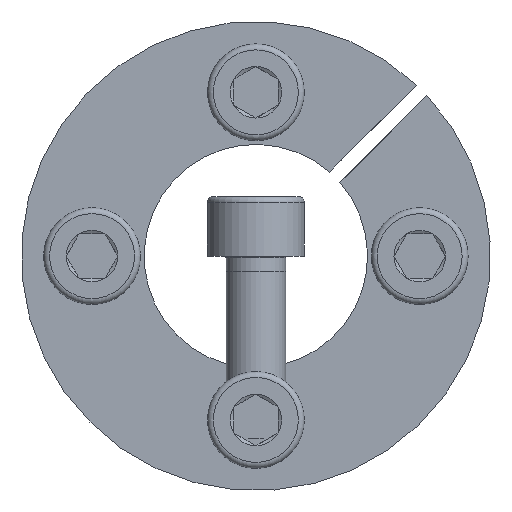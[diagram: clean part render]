
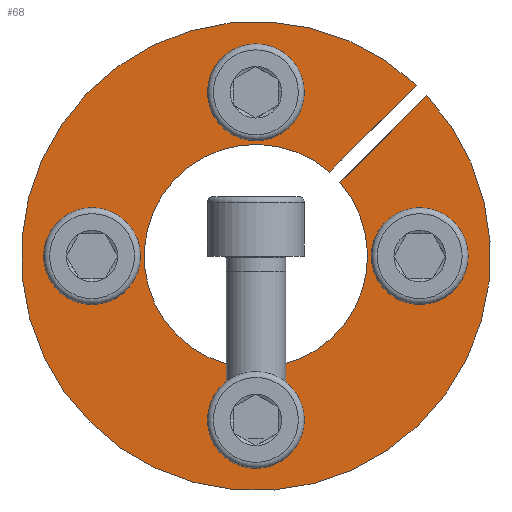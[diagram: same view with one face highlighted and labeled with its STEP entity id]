
A CAD part, front view. The second image highlights one B-rep face of the part: STEP entity #68.
In plain terms, the highlighted planar face has unit normal (0, -1, 0).
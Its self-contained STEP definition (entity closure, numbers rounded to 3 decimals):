
#68 = ADVANCED_FACE( '', ( #139, #140, #141, #142, #143 ), #144, .F. );
#139 = FACE_OUTER_BOUND( '', #241, .T. );
#140 = FACE_BOUND( '', #242, .T. );
#141 = FACE_BOUND( '', #243, .T. );
#142 = FACE_BOUND( '', #244, .T. );
#143 = FACE_BOUND( '', #245, .T. );
#144 = PLANE( '', #246 );
#241 = EDGE_LOOP( '', ( #388, #389, #390, #391 ) );
#242 = EDGE_LOOP( '', ( #392 ) );
#243 = EDGE_LOOP( '', ( #393 ) );
#244 = EDGE_LOOP( '', ( #394 ) );
#245 = EDGE_LOOP( '', ( #395 ) );
#246 = AXIS2_PLACEMENT_3D( '', #396, #397, #398 );
#388 = ORIENTED_EDGE( '', *, *, #610, .T. );
#389 = ORIENTED_EDGE( '', *, *, #619, .T. );
#390 = ORIENTED_EDGE( '', *, *, #620, .T. );
#391 = ORIENTED_EDGE( '', *, *, #621, .F. );
#392 = ORIENTED_EDGE( '', *, *, #622, .F. );
#393 = ORIENTED_EDGE( '', *, *, #623, .F. );
#394 = ORIENTED_EDGE( '', *, *, #624, .F. );
#395 = ORIENTED_EDGE( '', *, *, #625, .F. );
#396 = CARTESIAN_POINT( '', ( 0., 0., 31.5 ) );
#397 = DIRECTION( '', ( 0., 1., 0. ) );
#398 = DIRECTION( '', ( 1., 0., 0. ) );
#610 = EDGE_CURVE( '', #752, #750, #753, .T. );
#619 = EDGE_CURVE( '', #750, #768, #769, .T. );
#620 = EDGE_CURVE( '', #768, #770, #771, .T. );
#621 = EDGE_CURVE( '', #752, #770, #772, .T. );
#622 = EDGE_CURVE( '', #773, #773, #774, .T. );
#623 = EDGE_CURVE( '', #775, #775, #776, .T. );
#624 = EDGE_CURVE( '', #777, #777, #778, .T. );
#625 = EDGE_CURVE( '', #779, #779, #780, .T. );
#750 = VERTEX_POINT( '', #1003 );
#752 = VERTEX_POINT( '', #1006 );
#753 = LINE( '', #1007, #1008 );
#768 = VERTEX_POINT( '', #1034 );
#769 = CIRCLE( '', #1035, 31.5 );
#770 = VERTEX_POINT( '', #1036 );
#771 = LINE( '', #1037, #1038 );
#772 = CIRCLE( '', #1039, 15. );
#773 = VERTEX_POINT( '', #1040 );
#774 = CIRCLE( '', #1041, 4.5 );
#775 = VERTEX_POINT( '', #1042 );
#776 = CIRCLE( '', #1043, 4.5 );
#777 = VERTEX_POINT( '', #1044 );
#778 = CIRCLE( '', #1045, 4.5 );
#779 = VERTEX_POINT( '', #1046 );
#780 = CIRCLE( '', #1047, 4.5 );
#1003 = CARTESIAN_POINT( '', ( 21.556, 0., 22.97 ) );
#1006 = CARTESIAN_POINT( '', ( 9.876, 0., 11.29 ) );
#1007 = CARTESIAN_POINT( '', ( 9.876, 0., 11.29 ) );
#1008 = VECTOR( '', #1182, 1000. );
#1034 = CARTESIAN_POINT( '', ( 22.97, 0., 21.556 ) );
#1035 = AXIS2_PLACEMENT_3D( '', #1188, #1189, #1190 );
#1036 = CARTESIAN_POINT( '', ( 11.29, 0., 9.876 ) );
#1037 = CARTESIAN_POINT( '', ( 22.981, 0., 21.567 ) );
#1038 = VECTOR( '', #1191, 1000. );
#1039 = AXIS2_PLACEMENT_3D( '', #1192, #1193, #1194 );
#1040 = CARTESIAN_POINT( '', ( 4.5, 0., 22. ) );
#1041 = AXIS2_PLACEMENT_3D( '', #1195, #1196, #1197 );
#1042 = CARTESIAN_POINT( '', ( 22., 0., -4.5 ) );
#1043 = AXIS2_PLACEMENT_3D( '', #1198, #1199, #1200 );
#1044 = CARTESIAN_POINT( '', ( -4.5, 0., -22. ) );
#1045 = AXIS2_PLACEMENT_3D( '', #1201, #1202, #1203 );
#1046 = CARTESIAN_POINT( '', ( -22., 0., 4.5 ) );
#1047 = AXIS2_PLACEMENT_3D( '', #1204, #1205, #1206 );
#1182 = DIRECTION( '', ( 0.707, 0., 0.707 ) );
#1188 = CARTESIAN_POINT( '', ( 0., 0., 0. ) );
#1189 = DIRECTION( '', ( 0., -1., 0. ) );
#1190 = DIRECTION( '', ( 0., 0., -1. ) );
#1191 = DIRECTION( '', ( -0.707, 0., -0.707 ) );
#1192 = CARTESIAN_POINT( '', ( 0., 0., 0. ) );
#1193 = DIRECTION( '', ( 0., -1., 0. ) );
#1194 = DIRECTION( '', ( 0., 0., -1. ) );
#1195 = CARTESIAN_POINT( '', ( 0., 0., 22. ) );
#1196 = DIRECTION( '', ( 0., -1., 0. ) );
#1197 = DIRECTION( '', ( 1., 0., 0. ) );
#1198 = CARTESIAN_POINT( '', ( 22., 0., 0. ) );
#1199 = DIRECTION( '', ( 0., -1., 0. ) );
#1200 = DIRECTION( '', ( 0., 0., -1. ) );
#1201 = CARTESIAN_POINT( '', ( 0., 0., -22. ) );
#1202 = DIRECTION( '', ( 0., -1., 0. ) );
#1203 = DIRECTION( '', ( -1., 0., 0. ) );
#1204 = CARTESIAN_POINT( '', ( -22., 0., 0. ) );
#1205 = DIRECTION( '', ( 0., -1., 0. ) );
#1206 = DIRECTION( '', ( 0., 0., 1. ) );
